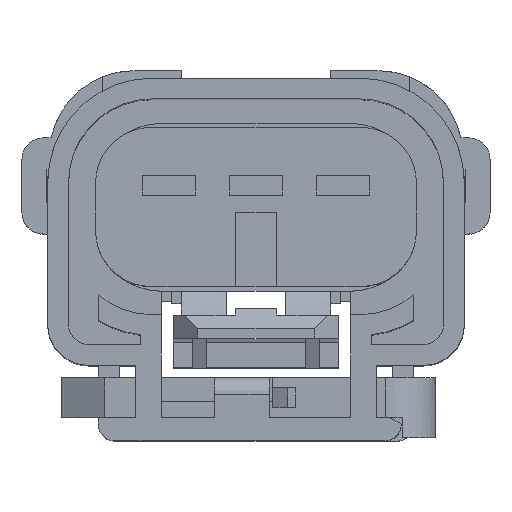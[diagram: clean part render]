
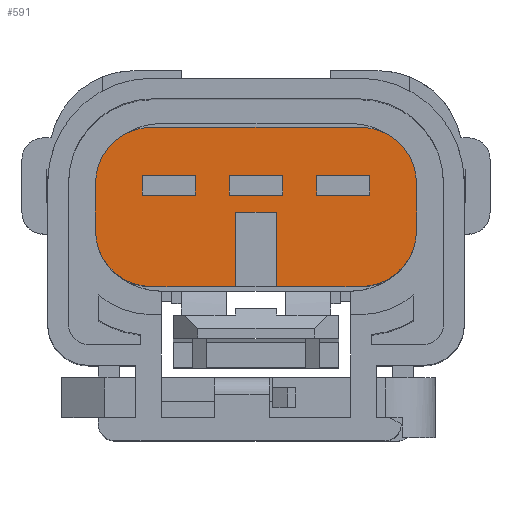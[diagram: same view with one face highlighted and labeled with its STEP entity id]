
A CAD part, top view. The second image highlights one B-rep face of the part: STEP entity #591.
In plain terms, the highlighted planar face has unit normal (0, 0, 1).
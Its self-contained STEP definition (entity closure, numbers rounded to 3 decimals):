
#591=ADVANCED_FACE('',(#1397,#1398,#1399,#1400),#957,.T.);
#957=PLANE('',#7168);
#1226=CIRCLE('',#7164,3.4);
#1227=CIRCLE('',#7165,3.4);
#1228=CIRCLE('',#7166,3.4);
#1229=CIRCLE('',#7167,3.4);
#1397=FACE_BOUND('',#1421,.T.);
#1398=FACE_BOUND('',#1422,.T.);
#1399=FACE_BOUND('',#1423,.T.);
#1400=FACE_BOUND('',#1424,.T.);
#1421=EDGE_LOOP('',(#1801,#1802,#1803,#1804));
#1422=EDGE_LOOP('',(#1805,#1806,#1807,#1808,#1809,#1810,#1811,#1812,#1813,
#1814,#1815,#1816));
#1423=EDGE_LOOP('',(#1817,#1818,#1819,#1820));
#1424=EDGE_LOOP('',(#1821,#1822,#1823,#1824));
#1801=ORIENTED_EDGE('',*,*,#4497,.F.);
#1802=ORIENTED_EDGE('',*,*,#4498,.F.);
#1803=ORIENTED_EDGE('',*,*,#4499,.F.);
#1804=ORIENTED_EDGE('',*,*,#4500,.F.);
#1805=ORIENTED_EDGE('',*,*,#4501,.T.);
#1806=ORIENTED_EDGE('',*,*,#4502,.T.);
#1807=ORIENTED_EDGE('',*,*,#4503,.T.);
#1808=ORIENTED_EDGE('',*,*,#4504,.T.);
#1809=ORIENTED_EDGE('',*,*,#4505,.F.);
#1810=ORIENTED_EDGE('',*,*,#4506,.T.);
#1811=ORIENTED_EDGE('',*,*,#4507,.T.);
#1812=ORIENTED_EDGE('',*,*,#4508,.T.);
#1813=ORIENTED_EDGE('',*,*,#4509,.T.);
#1814=ORIENTED_EDGE('',*,*,#4510,.T.);
#1815=ORIENTED_EDGE('',*,*,#4511,.T.);
#1816=ORIENTED_EDGE('',*,*,#4512,.T.);
#1817=ORIENTED_EDGE('',*,*,#4513,.T.);
#1818=ORIENTED_EDGE('',*,*,#4514,.T.);
#1819=ORIENTED_EDGE('',*,*,#4515,.T.);
#1820=ORIENTED_EDGE('',*,*,#4516,.T.);
#1821=ORIENTED_EDGE('',*,*,#4517,.T.);
#1822=ORIENTED_EDGE('',*,*,#4518,.T.);
#1823=ORIENTED_EDGE('',*,*,#4519,.T.);
#1824=ORIENTED_EDGE('',*,*,#4520,.T.);
#3841=VERTEX_POINT('',#9611);
#3842=VERTEX_POINT('',#9612);
#3843=VERTEX_POINT('',#9614);
#3844=VERTEX_POINT('',#9616);
#3845=VERTEX_POINT('',#9619);
#3846=VERTEX_POINT('',#9620);
#3847=VERTEX_POINT('',#9622);
#3848=VERTEX_POINT('',#9624);
#3849=VERTEX_POINT('',#9626);
#3850=VERTEX_POINT('',#9628);
#3851=VERTEX_POINT('',#9630);
#3852=VERTEX_POINT('',#9632);
#3853=VERTEX_POINT('',#9634);
#3854=VERTEX_POINT('',#9636);
#3855=VERTEX_POINT('',#9638);
#3856=VERTEX_POINT('',#9640);
#3857=VERTEX_POINT('',#9643);
#3858=VERTEX_POINT('',#9644);
#3859=VERTEX_POINT('',#9646);
#3860=VERTEX_POINT('',#9648);
#3861=VERTEX_POINT('',#9651);
#3862=VERTEX_POINT('',#9652);
#3863=VERTEX_POINT('',#9654);
#3864=VERTEX_POINT('',#9656);
#4497=EDGE_CURVE('',#3841,#3842,#5517,.T.);
#4498=EDGE_CURVE('',#3843,#3841,#5518,.T.);
#4499=EDGE_CURVE('',#3844,#3843,#5519,.T.);
#4500=EDGE_CURVE('',#3842,#3844,#5520,.T.);
#4501=EDGE_CURVE('',#3845,#3846,#5521,.T.);
#4502=EDGE_CURVE('',#3846,#3847,#1226,.T.);
#4503=EDGE_CURVE('',#3847,#3848,#5522,.T.);
#4504=EDGE_CURVE('',#3848,#3849,#5523,.T.);
#4505=EDGE_CURVE('',#3850,#3849,#5524,.T.);
#4506=EDGE_CURVE('',#3850,#3851,#5525,.T.);
#4507=EDGE_CURVE('',#3851,#3852,#5526,.T.);
#4508=EDGE_CURVE('',#3852,#3853,#1227,.T.);
#4509=EDGE_CURVE('',#3853,#3854,#5527,.T.);
#4510=EDGE_CURVE('',#3854,#3855,#1228,.T.);
#4511=EDGE_CURVE('',#3855,#3856,#5528,.T.);
#4512=EDGE_CURVE('',#3856,#3845,#1229,.T.);
#4513=EDGE_CURVE('',#3857,#3858,#5529,.T.);
#4514=EDGE_CURVE('',#3858,#3859,#5530,.T.);
#4515=EDGE_CURVE('',#3859,#3860,#5531,.T.);
#4516=EDGE_CURVE('',#3860,#3857,#5532,.T.);
#4517=EDGE_CURVE('',#3861,#3862,#5533,.T.);
#4518=EDGE_CURVE('',#3862,#3863,#5534,.T.);
#4519=EDGE_CURVE('',#3863,#3864,#5535,.T.);
#4520=EDGE_CURVE('',#3864,#3861,#5536,.T.);
#5517=LINE('',#9610,#6340);
#5518=LINE('',#9613,#6341);
#5519=LINE('',#9615,#6342);
#5520=LINE('',#9617,#6343);
#5521=LINE('',#9618,#6344);
#5522=LINE('',#9623,#6345);
#5523=LINE('',#9625,#6346);
#5524=LINE('',#9627,#6347);
#5525=LINE('',#9629,#6348);
#5526=LINE('',#9631,#6349);
#5527=LINE('',#9635,#6350);
#5528=LINE('',#9639,#6351);
#5529=LINE('',#9642,#6352);
#5530=LINE('',#9645,#6353);
#5531=LINE('',#9647,#6354);
#5532=LINE('',#9649,#6355);
#5533=LINE('',#9650,#6356);
#5534=LINE('',#9653,#6357);
#5535=LINE('',#9655,#6358);
#5536=LINE('',#9657,#6359);
#6340=VECTOR('',#7706,1.);
#6341=VECTOR('',#7707,1.);
#6342=VECTOR('',#7708,1.);
#6343=VECTOR('',#7709,1.);
#6344=VECTOR('',#7710,1.);
#6345=VECTOR('',#7713,1.);
#6346=VECTOR('',#7714,1.);
#6347=VECTOR('',#7715,1.);
#6348=VECTOR('',#7716,1.);
#6349=VECTOR('',#7717,1.);
#6350=VECTOR('',#7720,1.);
#6351=VECTOR('',#7723,1.);
#6352=VECTOR('',#7726,1.);
#6353=VECTOR('',#7727,1.);
#6354=VECTOR('',#7728,1.);
#6355=VECTOR('',#7729,1.);
#6356=VECTOR('',#7730,1.);
#6357=VECTOR('',#7731,1.);
#6358=VECTOR('',#7732,1.);
#6359=VECTOR('',#7733,1.);
#7164=AXIS2_PLACEMENT_3D('',#9621,#7711,#7712);
#7165=AXIS2_PLACEMENT_3D('',#9633,#7718,#7719);
#7166=AXIS2_PLACEMENT_3D('',#9637,#7721,#7722);
#7167=AXIS2_PLACEMENT_3D('',#9641,#7724,#7725);
#7168=AXIS2_PLACEMENT_3D('',#9658,#7734,#7735);
#7706=DIRECTION('',(0.,-1.,0.));
#7707=DIRECTION('',(-1.,0.,0.));
#7708=DIRECTION('',(0.,1.,0.));
#7709=DIRECTION('',(1.,0.,0.));
#7710=DIRECTION('',(0.,-1.,0.));
#7711=DIRECTION('',(0.,0.,1.));
#7712=DIRECTION('',(1.,0.,0.));
#7713=DIRECTION('',(1.,0.,0.));
#7714=DIRECTION('',(0.,1.,0.));
#7715=DIRECTION('',(-1.,0.,0.));
#7716=DIRECTION('',(0.,-1.,0.));
#7717=DIRECTION('',(1.,0.,0.));
#7718=DIRECTION('',(0.,0.,1.));
#7719=DIRECTION('',(1.,0.,0.));
#7720=DIRECTION('',(0.,1.,0.));
#7721=DIRECTION('',(0.,0.,1.));
#7722=DIRECTION('',(1.,0.,0.));
#7723=DIRECTION('',(-1.,0.,0.));
#7724=DIRECTION('',(0.,0.,1.));
#7725=DIRECTION('',(1.,0.,0.));
#7726=DIRECTION('',(-1.,0.,0.));
#7727=DIRECTION('',(0.,1.,0.));
#7728=DIRECTION('',(1.,0.,0.));
#7729=DIRECTION('',(0.,-1.,0.));
#7730=DIRECTION('',(-1.,0.,0.));
#7731=DIRECTION('',(0.,1.,0.));
#7732=DIRECTION('',(1.,0.,0.));
#7733=DIRECTION('',(0.,-1.,0.));
#7734=DIRECTION('',(0.,0.,1.));
#7735=DIRECTION('',(0.,1.,0.));
#9610=CARTESIAN_POINT('',(3.65,1.91,0.));
#9611=CARTESIAN_POINT('',(3.65,1.91,0.));
#9612=CARTESIAN_POINT('',(3.65,0.71,0.));
#9613=CARTESIAN_POINT('',(6.85,1.91,0.));
#9614=CARTESIAN_POINT('',(6.85,1.91,0.));
#9615=CARTESIAN_POINT('',(6.85,0.71,0.));
#9616=CARTESIAN_POINT('',(6.85,0.71,0.));
#9617=CARTESIAN_POINT('',(3.65,0.71,0.));
#9618=CARTESIAN_POINT('',(-9.675,-0.784,0.));
#9619=CARTESIAN_POINT('',(-9.675,1.4,0.));
#9620=CARTESIAN_POINT('',(-9.675,-1.4,0.));
#9621=CARTESIAN_POINT('',(-6.275,-1.4,0.));
#9622=CARTESIAN_POINT('',(-6.275,-4.8,0.));
#9623=CARTESIAN_POINT('',(8.183,-4.8,0.));
#9624=CARTESIAN_POINT('',(-1.225,-4.8,0.));
#9625=CARTESIAN_POINT('',(-1.225,-4.,0.));
#9626=CARTESIAN_POINT('',(-1.225,-0.33,0.));
#9627=CARTESIAN_POINT('',(-1.245,-0.33,0.));
#9628=CARTESIAN_POINT('',(1.225,-0.33,0.));
#9629=CARTESIAN_POINT('',(1.225,-0.73,0.));
#9630=CARTESIAN_POINT('',(1.225,-4.8,0.));
#9631=CARTESIAN_POINT('',(8.183,-4.8,0.));
#9632=CARTESIAN_POINT('',(6.275,-4.8,0.));
#9633=CARTESIAN_POINT('',(6.275,-1.4,0.));
#9634=CARTESIAN_POINT('',(9.675,-1.4,0.));
#9635=CARTESIAN_POINT('',(9.675,-0.784,0.));
#9636=CARTESIAN_POINT('',(9.675,1.4,0.));
#9637=CARTESIAN_POINT('',(6.275,1.4,0.));
#9638=CARTESIAN_POINT('',(6.275,4.8,0.));
#9639=CARTESIAN_POINT('',(8.183,4.8,0.));
#9640=CARTESIAN_POINT('',(-6.275,4.8,0.));
#9641=CARTESIAN_POINT('',(-6.275,1.4,0.));
#9642=CARTESIAN_POINT('',(1.6,0.71,0.));
#9643=CARTESIAN_POINT('',(1.6,0.71,0.));
#9644=CARTESIAN_POINT('',(-1.6,0.71,0.));
#9645=CARTESIAN_POINT('',(-1.6,0.71,0.));
#9646=CARTESIAN_POINT('',(-1.6,1.91,0.));
#9647=CARTESIAN_POINT('',(-1.6,1.91,0.));
#9648=CARTESIAN_POINT('',(1.6,1.91,0.));
#9649=CARTESIAN_POINT('',(1.6,1.91,0.));
#9650=CARTESIAN_POINT('',(-3.65,0.71,0.));
#9651=CARTESIAN_POINT('',(-3.65,0.71,0.));
#9652=CARTESIAN_POINT('',(-6.85,0.71,0.));
#9653=CARTESIAN_POINT('',(-6.85,0.71,0.));
#9654=CARTESIAN_POINT('',(-6.85,1.91,0.));
#9655=CARTESIAN_POINT('',(-6.85,1.91,0.));
#9656=CARTESIAN_POINT('',(-3.65,1.91,0.));
#9657=CARTESIAN_POINT('',(-3.65,1.91,0.));
#9658=CARTESIAN_POINT('',(8.183,-0.784,0.));
